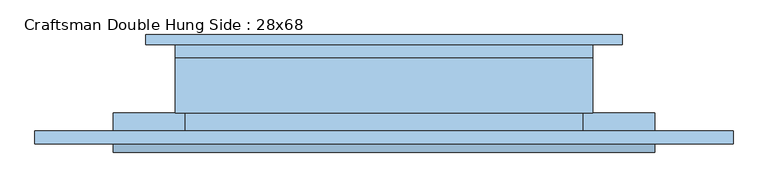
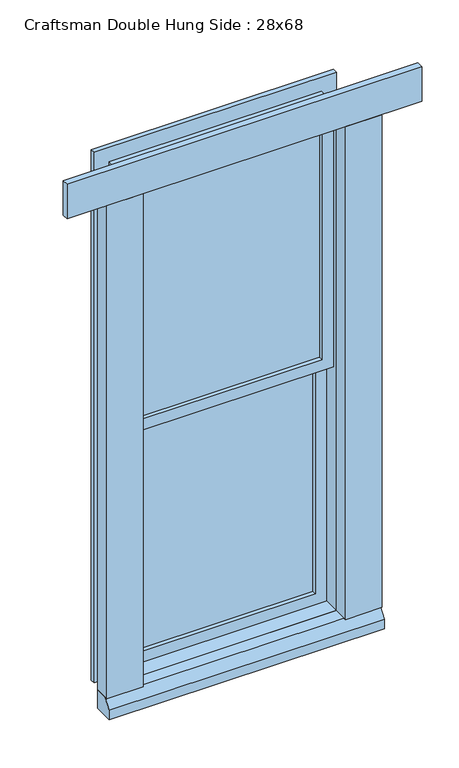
"""IFC4 building model written with IfcOpenShell, lengths in millimetres: window geometry, Craftsman Double Hung Side : 28x68."""

from ifc_helpers import new_model, si_unit, frame, origin, place, context, project, spatial, polyline, outline, extrude, source, transform, mapped, element, save


def craftsman_double_hung_side_28x68_9c575d6a(model_context):
    return source(origin(), model_context, "Body", "SweptSolid", [
        extrude(outline(polyline([(-342.9, 12.7), (-342.9, 25.4), (342.9, 25.4), (342.9, 12.7), (-342.9, 12.7)])), frame((0.0, 0.0, 723.9), z_axis=(0.0, 0.0, 1.0), x_axis=(1.0, 0.0, 0.0)), (0.0, 0.0, 1.0), 930.275),
        extrude(outline(polyline([(1698.625, -387.35), (679.45, -387.35), (679.45, 387.35), (1698.625, 387.35), (1698.625, -387.35)]), holes=[polyline([(1654.175, -342.9), (1654.175, 342.9), (723.9, 342.9), (723.9, -342.9), (1654.175, -342.9)])]), frame((0.0, -3.175, 0.0), z_axis=(0.0, 1.0, 0.0), x_axis=(0.0, 0.0, 1.0)), (0.0, 0.0, 1.0), 44.45),
        extrude(outline(polyline([(387.35, -127.0), (387.35, -66.675), (527.05, -66.675), (527.05, -127.0), (387.35, -127.0)])), frame((0.0, 0.0, 679.45), z_axis=(0.0, 0.0, 1.0), x_axis=(1.0, 0.0, 0.0)), (0.0, 0.0, 1.0), 1993.9),
        extrude(outline(polyline([(-527.05, -127.0), (-527.05, -66.675), (-387.35, -66.675), (-387.35, -127.0), (-527.05, -127.0)])), frame((0.0, 0.0, 679.45), z_axis=(0.0, 0.0, 1.0), x_axis=(1.0, 0.0, 0.0)), (0.0, 0.0, 1.0), 1993.9),
        extrude(outline(polyline([(2749.55, 463.55), (2749.55, -463.55), (603.25, -463.55), (603.25, 463.55), (2749.55, 463.55)]), holes=[polyline([(2660.65, 374.65), (692.15, 374.65), (692.15, -374.65), (2660.65, -374.65), (2660.65, 374.65)])]), frame((0.0, 66.675, 0.0), z_axis=(0.0, 1.0, 0.0), x_axis=(0.0, 0.0, 1.0)), (0.0, 0.0, 1.0), 19.05),
        extrude(outline(polyline([(342.9, -19.05), (342.9, -31.75), (-342.9, -31.75), (-342.9, -19.05), (342.9, -19.05)])), frame((0.0, 0.0, 1698.625), z_axis=(0.0, 0.0, 1.0), x_axis=(1.0, 0.0, 0.0)), (0.0, 0.0, 1.0), 930.275),
        extrude(outline(polyline([(2673.35, -387.35), (1654.175, -387.35), (1654.175, 387.35), (2673.35, 387.35), (2673.35, -387.35)]), holes=[polyline([(2628.9, -342.9), (2628.9, 342.9), (1698.625, 342.9), (1698.625, -342.9), (2628.9, -342.9)])]), frame((0.0, -47.625, 0.0), z_axis=(0.0, 1.0, 0.0), x_axis=(0.0, 0.0, 1.0)), (0.0, 0.0, 1.0), 44.45),
        extrude(outline(polyline([(2692.4, -406.4), (660.4, -406.4), (660.4, 406.4), (2692.4, 406.4), (2692.4, -406.4)]), holes=[polyline([(2660.65, -374.65), (2660.65, 374.65), (692.15, 374.65), (692.15, -374.65), (2660.65, -374.65)])]), frame((0.0, 41.275, 0.0), z_axis=(0.0, 1.0, 0.0), x_axis=(0.0, 0.0, 1.0)), (0.0, 0.0, 1.0), 25.4),
        extrude(outline(polyline([(2692.4, 406.4), (2692.4, -406.4), (660.4, -406.4), (660.4, 406.4), (2692.4, 406.4)]), holes=[polyline([(2673.35, 387.35), (679.45, 387.35), (679.45, -387.35), (2673.35, -387.35), (2673.35, 387.35)])]), frame((0.0, -66.675, 0.0), z_axis=(0.0, 1.0, 0.0), x_axis=(0.0, 0.0, 1.0)), (0.0, 0.0, 1.0), 107.95),
        extrude(outline(polyline([(-679.45, -127.0), (-679.45, -101.6), (679.45, -101.6), (679.45, -127.0), (-679.45, -127.0)])), frame((0.0, 0.0, 2673.35), z_axis=(0.0, 0.0, 1.0), x_axis=(1.0, 0.0, 0.0)), (0.0, 0.0, 1.0), 139.7),
        extrude(outline(polyline([(-117.475, 679.45), (-66.675, 679.45), (-66.675, 603.25), (-142.875, 603.25), (-142.875, 641.35), (-117.475, 679.45)])), frame((-527.05, 0.0, 0.0), z_axis=(1.0, 0.0, 0.0), x_axis=(0.0, 1.0, 0.0)), (0.0, 0.0, 1.0), 1054.1),
    ])


if __name__ == "__main__":
    model = new_model("IFC4")
    model_context = context("Model", 3, world=origin())
    ifc_project = project(units=[si_unit("LENGTHUNIT", "METRE", prefix="MILLI")], contexts=[model_context])
    site = spatial("IfcSite", under=ifc_project)
    building = spatial("IfcBuilding", under=site)
    placement = place(None, origin())
    craftsman_double_hung_side_28x68_shape = craftsman_double_hung_side_28x68_9c575d6a(model_context)
    element("IfcWindow", 1, ObjectType="Craftsman Double Hung Side : 28x68", at=placement, inside=building, context=model_context, shape_type="MappedRepresentation", body=[
        mapped(craftsman_double_hung_side_28x68_shape, transform((0.0, 0.0, 0.0), x_axis=(1.0, 0.0, 0.0), y_axis=(0.0, 1.0, 0.0), z_axis=(0.0, 0.0, 1.0))),
    ])
    save(model, "model.ifc")
